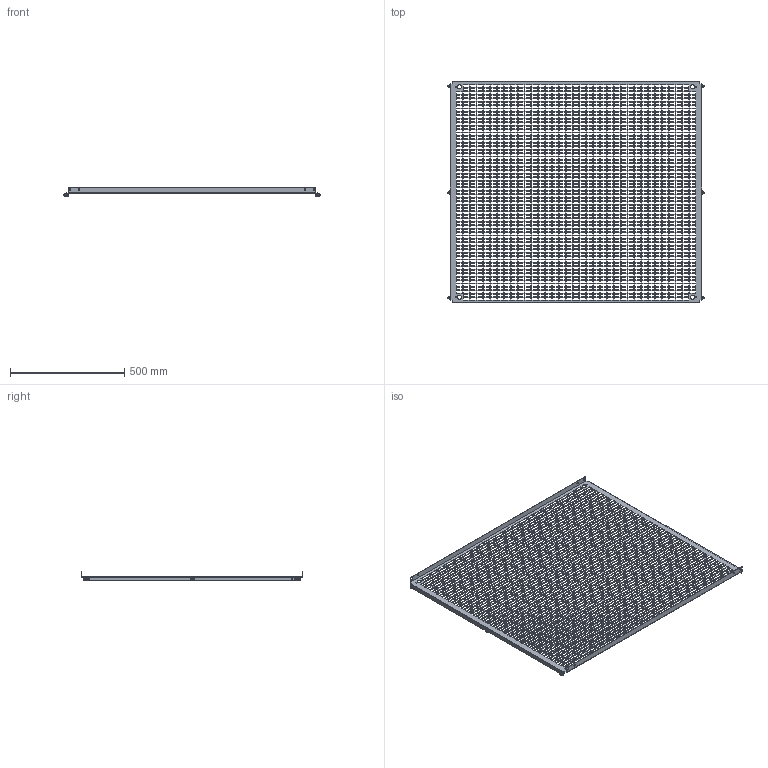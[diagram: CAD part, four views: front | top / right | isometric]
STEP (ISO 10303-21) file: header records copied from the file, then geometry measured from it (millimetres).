
FILE_DESCRIPTION(('Open CASCADE Model'),'2;1');
FILE_NAME('Open CASCADE Shape Model','2025-02-19T16:57:22',('Author'),( 'Open CASCADE'),'Open CASCADE STEP processor 7.8','Open CASCADE 7.8' ,'Unknown');
FILE_SCHEMA(('AUTOMOTIVE_DESIGN { 1 0 10303 214 1 1 1 1 }'));
Length unit declared in the file: millimetre
Products named in the file (4): Compound1; Solid1; Solid2; Solid3
Assembly tree (13 placements, depth 2):
  Compound1
    Solid1
    Solid2  x6
    Solid3  x6
Bounding box: 1119 x 969 x 42.59 mm (x, y, z)
Volume: 1301307.5 mm3; surface area: 1460825.8 mm2
Topology: 13 solids, 13 shells, 9249 faces, 27470 edges, 18260 vertices
Faces by surface type: plane 9004, cone 102, bspline 87, cylinder 38, torus 18
Full cylindrical faces by diameter (mm): 5 x6, 6 x12, 7 x16
Entity records: 306448 total; most frequent: CARTESIAN_POINT 55369, ORIENTED_EDGE 53810, DIRECTION 44818, EDGE_CURVE 26905, LINE 26710, VECTOR 26710, VERTEX_POINT 17930, FACE_BOUND 13441
